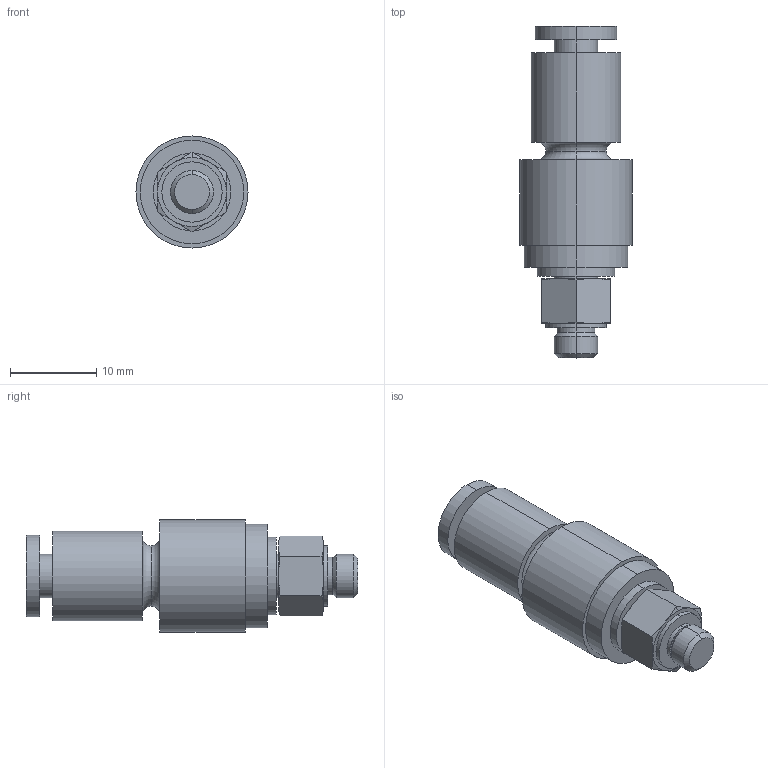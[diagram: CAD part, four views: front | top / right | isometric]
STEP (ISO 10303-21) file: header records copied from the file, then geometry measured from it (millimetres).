
FILE_DESCRIPTION (( 'STEP AP203' ), '1' );
FILE_NAME ('FKXH04-M5.STEP', '2022-04-18T15:08:36', ( '' ), ( '' ), 'SwSTEP 2.0', 'SolidWorks 2019', '' );
FILE_SCHEMA (( 'CONFIG_CONTROL_DESIGN' ));
Length unit declared in the file: millimetre
Products named in the file (1): FKXH04-M5
Bounding box: 13 x 38.5 x 13 mm (x, y, z)
Volume: 2960.8 mm3; surface area: 1916.7 mm2
Topology: 1 solids, 1 shells, 64 faces, 130 edges, 80 vertices
Faces by surface type: cylinder 22, plane 20, cone 18, torus 4
Entity records: 1979 total; most frequent: CARTESIAN_POINT 539, DIRECTION 308, ORIENTED_EDGE 260, AXIS2_PLACEMENT_3D 137, EDGE_CURVE 130, VERTEX_POINT 80, EDGE_LOOP 76, CIRCLE 72
